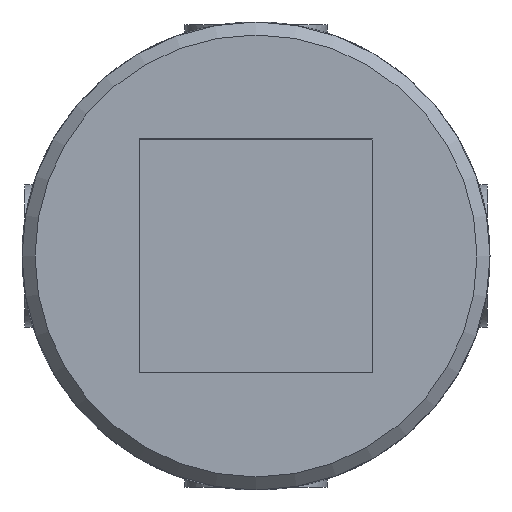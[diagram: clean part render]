
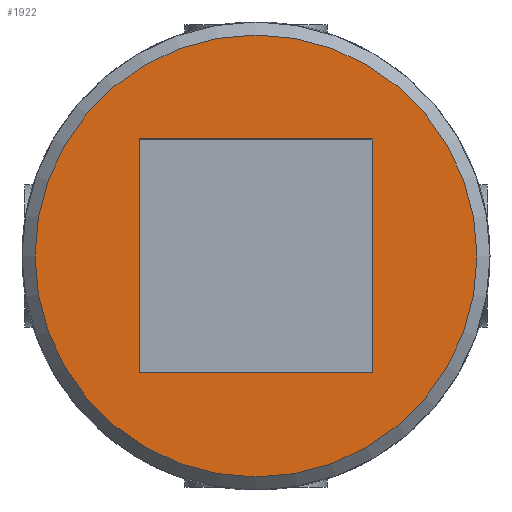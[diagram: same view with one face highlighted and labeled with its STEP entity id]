
A CAD part, front view. The second image highlights one B-rep face of the part: STEP entity #1922.
In plain terms, the highlighted planar face has unit normal (0, -1, 0).
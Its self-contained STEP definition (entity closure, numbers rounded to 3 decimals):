
#112=LINE('',#3598,#176);
#116=LINE('',#3621,#180);
#122=LINE('',#3659,#186);
#125=LINE('',#3679,#189);
#176=VECTOR('',#2499,18.);
#180=VECTOR('',#2507,18.);
#186=VECTOR('',#2515,18.);
#189=VECTOR('',#2522,18.);
#240=PLANE('',#2118);
#421=FACE_BOUND('',#670,.T.);
#517=FACE_OUTER_BOUND('',#669,.T.);
#669=EDGE_LOOP('',(#1675));
#670=EDGE_LOOP('',(#1676,#1677,#1678,#1679));
#774=CIRCLE('',#2116,17.);
#919=VERTEX_POINT('',#3595);
#920=VERTEX_POINT('',#3597);
#926=VERTEX_POINT('',#3620);
#935=VERTEX_POINT('',#3657);
#942=VERTEX_POINT('',#3726);
#1159=EDGE_CURVE('',#920,#919,#112,.T.);
#1166=EDGE_CURVE('',#926,#920,#116,.T.);
#1176=EDGE_CURVE('',#919,#935,#122,.T.);
#1182=EDGE_CURVE('',#935,#926,#125,.T.);
#1193=EDGE_CURVE('',#942,#942,#774,.T.);
#1675=ORIENTED_EDGE('',*,*,#1193,.F.);
#1676=ORIENTED_EDGE('',*,*,#1159,.T.);
#1677=ORIENTED_EDGE('',*,*,#1176,.T.);
#1678=ORIENTED_EDGE('',*,*,#1182,.T.);
#1679=ORIENTED_EDGE('',*,*,#1166,.T.);
#1922=ADVANCED_FACE('',(#517,#421),#240,.F.);
#2116=AXIS2_PLACEMENT_3D('',#3727,#2551,#2552);
#2118=AXIS2_PLACEMENT_3D('',#3951,#2559,#2560);
#2499=DIRECTION('',(0.,0.,-1.));
#2507=DIRECTION('',(1.,0.,0.));
#2515=DIRECTION('',(-1.,0.,0.));
#2522=DIRECTION('',(0.,0.,1.));
#2551=DIRECTION('center_axis',(0.,1.,0.));
#2552=DIRECTION('ref_axis',(1.,0.,0.));
#2559=DIRECTION('center_axis',(0.,1.,0.));
#2560=DIRECTION('ref_axis',(0.,0.,1.));
#3595=CARTESIAN_POINT('',(9.,-45.5,-9.));
#3597=CARTESIAN_POINT('',(9.,-45.5,9.));
#3598=CARTESIAN_POINT('',(9.,-45.5,4.5));
#3620=CARTESIAN_POINT('',(-9.,-45.5,9.));
#3621=CARTESIAN_POINT('',(-4.5,-45.5,9.));
#3657=CARTESIAN_POINT('',(-9.,-45.5,-9.));
#3659=CARTESIAN_POINT('',(4.5,-45.5,-9.));
#3679=CARTESIAN_POINT('',(-9.,-45.5,-4.5));
#3726=CARTESIAN_POINT('',(-17.,-45.5,0.));
#3727=CARTESIAN_POINT('Origin',(0.,-45.5,0.));
#3951=CARTESIAN_POINT('Origin',(0.,-45.5,0.));
